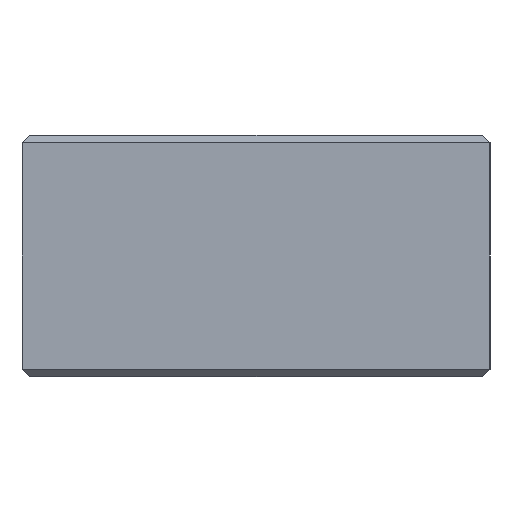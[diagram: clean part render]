
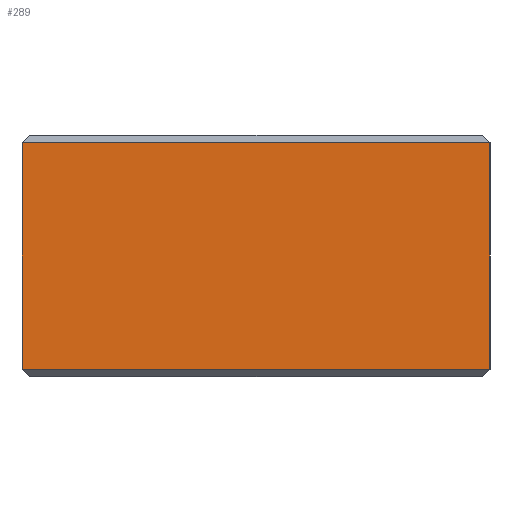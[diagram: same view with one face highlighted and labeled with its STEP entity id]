
A CAD part, left-side view. The second image highlights one B-rep face of the part: STEP entity #289.
In plain terms, the highlighted planar face has unit normal (-1, 0, 0).
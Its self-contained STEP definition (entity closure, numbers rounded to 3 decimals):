
#113 = CARTESIAN_POINT ( 'NONE',  ( -31., -15.5, 8. ) ) ;
#120 = PLANE ( 'NONE',  #1353 ) ;
#121 = DIRECTION ( 'NONE',  ( 1., 0., 0. ) ) ;
#122 = DIRECTION ( 'NONE',  ( 0., 0., -1. ) ) ;
#186 = CARTESIAN_POINT ( 'NONE',  ( -31., 15.5, 7.5 ) ) ;
#194 = CARTESIAN_POINT ( 'NONE',  ( -31., -15.5, -7.5 ) ) ;
#195 = CARTESIAN_POINT ( 'NONE',  ( -31., -15.5, 7.5 ) ) ;
#200 = CARTESIAN_POINT ( 'NONE',  ( -31., 15.5, -7.5 ) ) ;
#289 = ADVANCED_FACE ( 'NONE', ( #581 ), #120, .F. ) ;
#370 = EDGE_LOOP ( 'NONE', ( #1285, #1286, #1287, #1288 ) ) ;
#428 = VERTEX_POINT ( 'NONE', #186 ) ;
#438 = VERTEX_POINT ( 'NONE', #194 ) ;
#439 = VERTEX_POINT ( 'NONE', #195 ) ;
#444 = VERTEX_POINT ( 'NONE', #200 ) ;
#581 = FACE_OUTER_BOUND ( 'NONE', #370, .T. ) ;
#775 = LINE ( 'NONE', #1110, #777 ) ;
#777 = VECTOR ( 'NONE', #1111, 1000. ) ;
#807 = LINE ( 'NONE', #1164, #823 ) ;
#816 = LINE ( 'NONE', #1171, #819 ) ;
#818 = LINE ( 'NONE', #1173, #821 ) ;
#819 = VECTOR ( 'NONE', #1172, 1000. ) ;
#821 = VECTOR ( 'NONE', #1174, 1000. ) ;
#823 = VECTOR ( 'NONE', #1175, 1000. ) ;
#1110 = CARTESIAN_POINT ( 'NONE',  ( -31., 15.5, 8. ) ) ;
#1111 = DIRECTION ( 'NONE',  ( 0., 0., -1. ) ) ;
#1164 = CARTESIAN_POINT ( 'NONE',  ( -31., -15.5, 7.5 ) ) ;
#1171 = CARTESIAN_POINT ( 'NONE',  ( -31., -15.5, -7.5 ) ) ;
#1172 = DIRECTION ( 'NONE',  ( 0., -1., 0. ) ) ;
#1173 = CARTESIAN_POINT ( 'NONE',  ( -31., -15.5, 8. ) ) ;
#1174 = DIRECTION ( 'NONE',  ( 0., 0., -1. ) ) ;
#1175 = DIRECTION ( 'NONE',  ( 0., 1., 0. ) ) ;
#1285 = ORIENTED_EDGE ( 'NONE', *, *, #1473, .T. ) ;
#1286 = ORIENTED_EDGE ( 'NONE', *, *, #1499, .T. ) ;
#1287 = ORIENTED_EDGE ( 'NONE', *, *, #1500, .F. ) ;
#1288 = ORIENTED_EDGE ( 'NONE', *, *, #1501, .T. ) ;
#1353 = AXIS2_PLACEMENT_3D ( 'NONE', #113, #121, #122 ) ;
#1473 = EDGE_CURVE ( 'NONE', #428, #444, #775, .T. ) ;
#1499 = EDGE_CURVE ( 'NONE', #444, #438, #816, .T. ) ;
#1500 = EDGE_CURVE ( 'NONE', #439, #438, #818, .T. ) ;
#1501 = EDGE_CURVE ( 'NONE', #439, #428, #807, .T. ) ;
